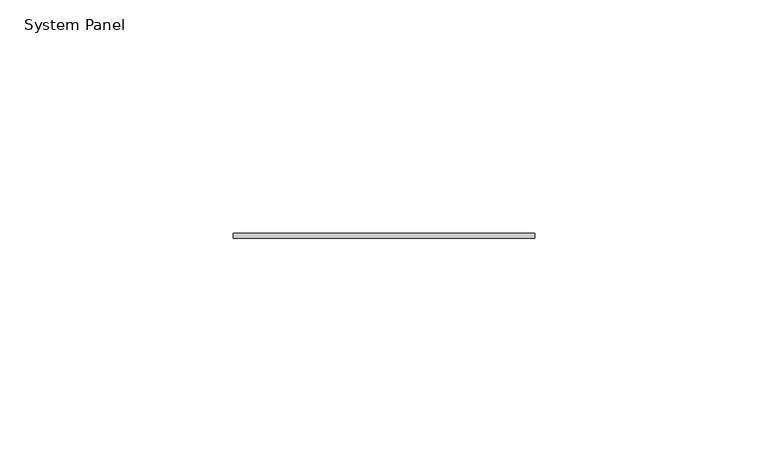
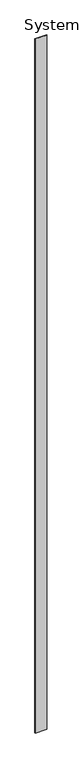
"""IFC4 building model written with IfcOpenShell, lengths in millimetres: plate geometry, System Panel : Stratco_Hiland_Tray."""

from ifc_helpers import new_model, si_unit, origin, origin_with_axes, place, context, project, spatial, polyline, outline, extrude, source, transform, mapped, element, save


def system_panel_fe512d0c(model_context):
    return source(origin(), model_context, "Body", "SweptSolid", [
        extrude(outline(polyline([(32.2485582, 2.5), (-32.2485582, 2.5), (-32.2485582, 3.5), (32.2485582, 3.5), (32.2485582, 2.5)])), origin_with_axes(), (0.0, 0.0, 1.0), 4000.0),
    ])


if __name__ == "__main__":
    model = new_model("IFC4")
    model_context = context("Model", 3, world=origin())
    ifc_project = project(units=[si_unit("LENGTHUNIT", "METRE", prefix="MILLI")], contexts=[model_context])
    site = spatial("IfcSite", under=ifc_project)
    building = spatial("IfcBuilding", under=site)
    placement = place(None, origin())
    system_panel_shape = system_panel_fe512d0c(model_context)
    element("IfcPlate", 1, ObjectType="System Panel : Stratco_Hiland_Tray", at=placement, inside=building, context=model_context, shape_type="MappedRepresentation", body=[
        mapped(system_panel_shape, transform((0.0, 0.0, 0.0), x_axis=(1.0, 0.0, 0.0), y_axis=(0.0, 1.0, 0.0), z_axis=(0.0, 0.0, 1.0))),
    ])
    save(model, "model.ifc")
